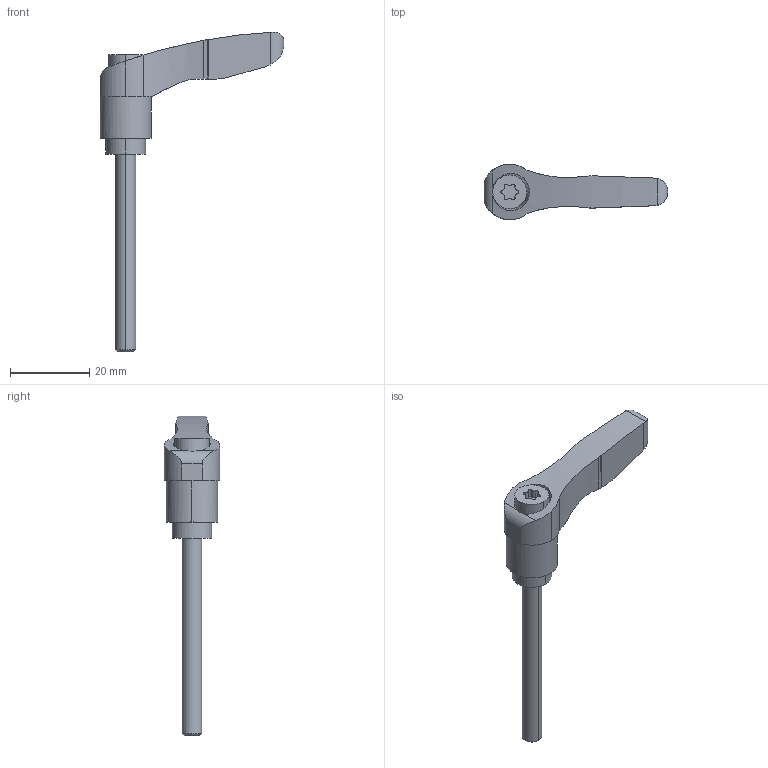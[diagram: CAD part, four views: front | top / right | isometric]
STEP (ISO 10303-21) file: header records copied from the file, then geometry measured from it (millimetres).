
FILE_DESCRIPTION (( 'STEP AP203' ), '1' );
FILE_NAME ('fkr5x50-og.STEP', '2021-10-26T00:11:15', ( '' ), ( '' ), 'SwSTEP 2.0', 'SolidWorks 2020', '' );
FILE_SCHEMA (( 'CONFIG_CONTROL_DESIGN' ));
Length unit declared in the file: millimetre
Products named in the file (1): fkr5x50-og
Bounding box: 46.51 x 14 x 80.87 mm (x, y, z)
Volume: 6524.2 mm3; surface area: 3343.1 mm2
Topology: 1 solids, 1 shells, 62 faces, 159 edges, 102 vertices
Faces by surface type: cylinder 42, plane 14, cone 6
Entity records: 2169 total; most frequent: CARTESIAN_POINT 604, ORIENTED_EDGE 318, DIRECTION 313, EDGE_CURVE 159, AXIS2_PLACEMENT_3D 125, VERTEX_POINT 102, EDGE_LOOP 65, LINE 63
